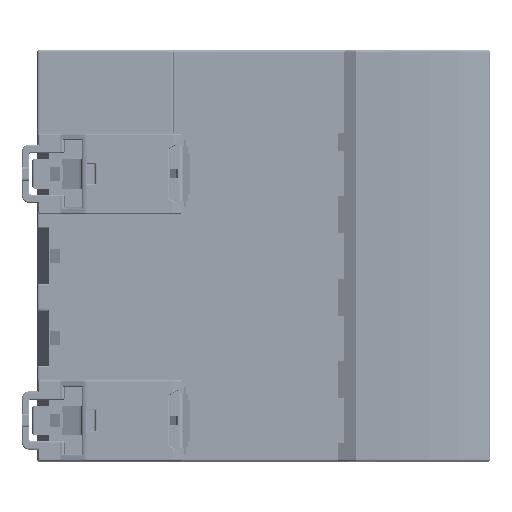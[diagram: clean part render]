
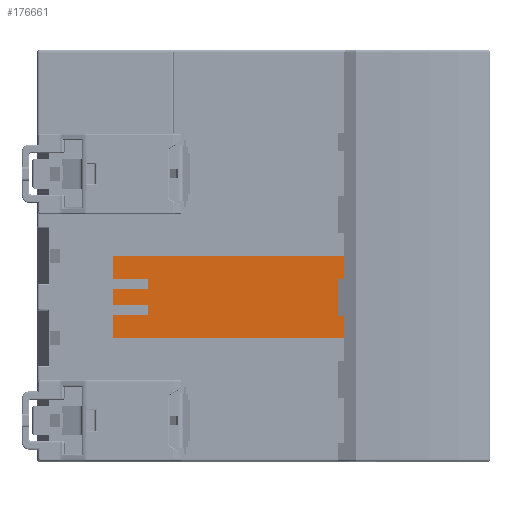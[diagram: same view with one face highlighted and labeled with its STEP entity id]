
A CAD part, top view. The second image highlights one B-rep face of the part: STEP entity #176661.
In plain terms, the highlighted planar face has unit normal (0, 0, 1).
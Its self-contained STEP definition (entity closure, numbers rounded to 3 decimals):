
#39581=DIRECTION('',(0.,-1.,0.));
#39582=VECTOR('',#39581,5.8);
#39583=CARTESIAN_POINT('',(18.062,38.5,-5.5));
#39584=LINE('',#39583,#39582);
#39585=DIRECTION('',(0.,-1.,0.));
#39586=VECTOR('',#39585,5.);
#39587=CARTESIAN_POINT('',(18.062,44.5,-5.5));
#39588=LINE('',#39587,#39586);
#39589=DIRECTION('',(1.,0.,0.));
#39590=VECTOR('',#39589,50.);
#39591=CARTESIAN_POINT('',(18.062,44.5,-5.5));
#39592=LINE('',#39591,#39590);
#39593=DIRECTION('',(1.,0.,0.));
#39594=VECTOR('',#39593,50.);
#39595=CARTESIAN_POINT('',(18.062,26.7,-5.5));
#39596=LINE('',#39595,#39594);
#39597=DIRECTION('',(0.,1.,0.));
#39598=VECTOR('',#39597,5.);
#39599=CARTESIAN_POINT('',(18.062,26.7,-5.5));
#39600=LINE('',#39599,#39598);
#39601=DIRECTION('',(-1.,0.,0.));
#39602=VECTOR('',#39601,7.4);
#39603=CARTESIAN_POINT('',(25.462,31.7,-5.5));
#39604=LINE('',#39603,#39602);
#39609=DIRECTION('',(0.,-1.,0.));
#39610=VECTOR('',#39609,1.);
#39611=CARTESIAN_POINT('',(25.462,32.7,-5.5));
#39612=LINE('',#39611,#39610);
#39665=DIRECTION('',(-1.,0.,0.));
#39666=VECTOR('',#39665,7.4);
#39667=CARTESIAN_POINT('',(25.462,32.7,-5.5));
#39668=LINE('',#39667,#39666);
#39669=DIRECTION('',(1.,0.,0.));
#39670=VECTOR('',#39669,7.4);
#39671=CARTESIAN_POINT('',(18.062,38.5,-5.5));
#39672=LINE('',#39671,#39670);
#39677=DIRECTION('',(0.,-1.,0.));
#39678=VECTOR('',#39677,1.);
#39679=CARTESIAN_POINT('',(25.462,39.5,-5.5));
#39680=LINE('',#39679,#39678);
#39733=DIRECTION('',(1.,0.,0.));
#39734=VECTOR('',#39733,7.4);
#39735=CARTESIAN_POINT('',(18.062,39.5,-5.5));
#39736=LINE('',#39735,#39734);
#39741=DIRECTION('',(0.,1.,0.));
#39742=VECTOR('',#39741,17.8);
#39743=CARTESIAN_POINT('',(68.062,26.7,-5.5));
#39744=LINE('',#39743,#39742);
#95415=CARTESIAN_POINT('',(68.062,44.5,-5.5));
#95416=VERTEX_POINT('',#95415);
#95417=CARTESIAN_POINT('',(18.062,44.5,-5.5));
#95418=VERTEX_POINT('',#95417);
#95463=CARTESIAN_POINT('',(68.062,26.7,-5.5));
#95464=VERTEX_POINT('',#95463);
#95465=CARTESIAN_POINT('',(18.062,26.7,-5.5));
#95466=VERTEX_POINT('',#95465);
#97519=CARTESIAN_POINT('',(18.062,31.7,-5.5));
#97520=VERTEX_POINT('',#97519);
#97529=CARTESIAN_POINT('',(18.062,32.7,-5.5));
#97530=VERTEX_POINT('',#97529);
#97531=CARTESIAN_POINT('',(18.062,38.5,-5.5));
#97532=VERTEX_POINT('',#97531);
#97541=CARTESIAN_POINT('',(18.062,39.5,-5.5));
#97542=VERTEX_POINT('',#97541);
#97584=CARTESIAN_POINT('',(25.462,31.7,-5.5));
#97585=VERTEX_POINT('',#97584);
#97586=CARTESIAN_POINT('',(25.462,32.7,-5.5));
#97587=VERTEX_POINT('',#97586);
#97588=CARTESIAN_POINT('',(25.462,38.5,-5.5));
#97589=VERTEX_POINT('',#97588);
#97590=CARTESIAN_POINT('',(25.462,39.5,-5.5));
#97591=VERTEX_POINT('',#97590);
#176635=CARTESIAN_POINT('',(43.062,35.6,-5.5));
#176636=DIRECTION('',(0.,0.,1.));
#176637=DIRECTION('',(1.,0.,0.));
#176638=AXIS2_PLACEMENT_3D('',#176635,#176636,#176637);
#176639=PLANE('',#176638);
#176641=ORIENTED_EDGE('',*,*,#176640,.F.);
#176643=ORIENTED_EDGE('',*,*,#176642,.F.);
#176645=ORIENTED_EDGE('',*,*,#176644,.T.);
#176646=ORIENTED_EDGE('',*,*,#175775,.F.);
#176648=ORIENTED_EDGE('',*,*,#176647,.T.);
#176650=ORIENTED_EDGE('',*,*,#176649,.F.);
#176652=ORIENTED_EDGE('',*,*,#176651,.F.);
#176653=ORIENTED_EDGE('',*,*,#175763,.F.);
#176654=ORIENTED_EDGE('',*,*,#164050,.T.);
#176656=ORIENTED_EDGE('',*,*,#176655,.F.);
#176657=ORIENTED_EDGE('',*,*,#164161,.F.);
#176658=ORIENTED_EDGE('',*,*,#175787,.T.);
#176659=EDGE_LOOP('',(#176641,#176643,#176645,#176646,#176648,#176650,#176652,
#176653,#176654,#176656,#176657,#176658));
#176660=FACE_OUTER_BOUND('',#176659,.F.);
#176661=ADVANCED_FACE('',(#176660),#176639,.T.);
#164050=EDGE_CURVE('',#95418,#95416,#39592,.T.);
#164161=EDGE_CURVE('',#95466,#95464,#39596,.T.);
#175763=EDGE_CURVE('',#95418,#97542,#39588,.T.);
#175775=EDGE_CURVE('',#97532,#97530,#39584,.T.);
#175787=EDGE_CURVE('',#95466,#97520,#39600,.T.);
#176640=EDGE_CURVE('',#97585,#97520,#39604,.T.);
#176642=EDGE_CURVE('',#97587,#97585,#39612,.T.);
#176644=EDGE_CURVE('',#97587,#97530,#39668,.T.);
#176647=EDGE_CURVE('',#97532,#97589,#39672,.T.);
#176649=EDGE_CURVE('',#97591,#97589,#39680,.T.);
#176651=EDGE_CURVE('',#97542,#97591,#39736,.T.);
#176655=EDGE_CURVE('',#95464,#95416,#39744,.T.);
